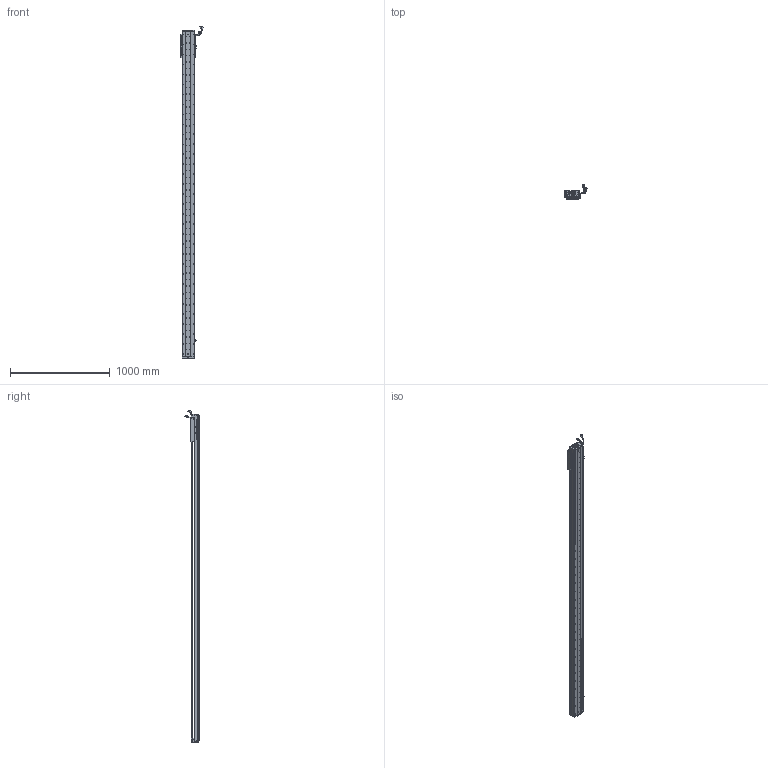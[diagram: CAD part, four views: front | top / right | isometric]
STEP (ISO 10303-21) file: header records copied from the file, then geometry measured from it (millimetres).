
FILE_DESCRIPTION (( 'STEP AP203' ), '1' );
FILE_NAME ('Z3-RY120D-1-L500-B-K.SLDASM_2950.step', '2021-05-17T05:51:59', ( '盈信电脑' ), ( '东莞市道滘镇水果街19号' ), 'SwSTEP 2.0', 'SolidWorks 2016', '' );
FILE_SCHEMA (( 'CONFIG_CONTROL_DESIGN' ));
Length unit declared in the file: millimetre
Products named in the file (37): SCREW-M1.6-2; SCREW-M1.6-3; COVER; HOLDER0; SCREW-M1.6-1; LABEL-Part-1; SEAL; SEAL-Part-1; Z-RY120D詩湍狟揤裔; Z3-RY120D-1-L500-B-K.SLDASM_2950; HARNESS-Part-2; SCALE-Part-1; 覜茼ん672; PBU_SHEET; Z3-RY120-L500詩湍100mm遵_2950; LABEL; 榋妏寠巭燃_暯_M2_2; COVER-Part-1; Z3-RY120-500-倰第菁釱_2950; PSLH080_PSLF2; Z-120詩湍傷裔啣; 120-Z-臏賑輸盄裔(21遴); SHIELDPLATE; SCREW-M1.6; 080黍杅芛假蚾釱21遴; HARNESS-Part-1; 672嫖萇羲壽假蚾釱; SCALE; SCREW-M1.7; 140雄赽晤鎢ん堤盄; Z3-RY120铝滑块（21款）; 140蚥薯蝶輸; SCREW-M1.7-1; RY100FB-遵嫖萇覜茼え; SCALE-Part-2; Z-RY120D詩湍奻揤裔; HARNESS
Assembly tree (43 placements, depth 4):
  Z3-RY120D-1-L500-B-K.SLDASM_2950
    Z3-RY120-500-倰第菁釱_2950
    覜茼ん672  x3
    672嫖萇羲壽假蚾釱  x2
    Z3-RY120铝滑块（21款）
    PSLH080_PSLF2
      SCALE
        SCALE-Part-1
        SCALE-Part-2
      HARNESS
        HARNESS-Part-1
        HARNESS-Part-2
      LABEL
        LABEL-Part-1
      COVER
        COVER-Part-1
      SEAL
        SEAL-Part-1
      榋妏寠巭燃_暯_M2_2
      SHIELDPLATE
      SCREW-M1.7
      SCREW-M1.7-1
      PBU_SHEET
      SCREW-M1.6
      SCREW-M1.6-1
      SCREW-M1.6-2
      SCREW-M1.6-3
      HOLDER0
    080黍杅芛假蚾釱21遴
    120-Z-臏賑輸盄裔(21遴)
    140雄赽晤鎢ん堤盄
    140蚥薯蝶輸  x2
    RY100FB-遵嫖萇覜茼え
    Z-120詩湍傷裔啣  x2
    Z-RY120D詩湍奻揤裔  x2
    Z-RY120D詩湍狟揤裔  x2
    Z3-RY120-L500詩湍100mm遵_2950
Bounding box: 222.83 x 140.94 x 3323.99 mm (x, y, z)
Volume: 7592607.9 mm3; surface area: 2674171.5 mm2
Topology: 38 solids, 38 shells, 4077 faces, 11787 edges, 7434 vertices
Faces by surface type: cylinder 2221, plane 1304, cone 430, torus 69, bspline 53
Entity records: 141098 total; most frequent: CARTESIAN_POINT 44627, ORIENTED_EDGE 20238, DIRECTION 18211, EDGE_CURVE 10119, AXIS2_PLACEMENT_3D 6756, VERTEX_POINT 6554, VECTOR 4699, LINE 4699
